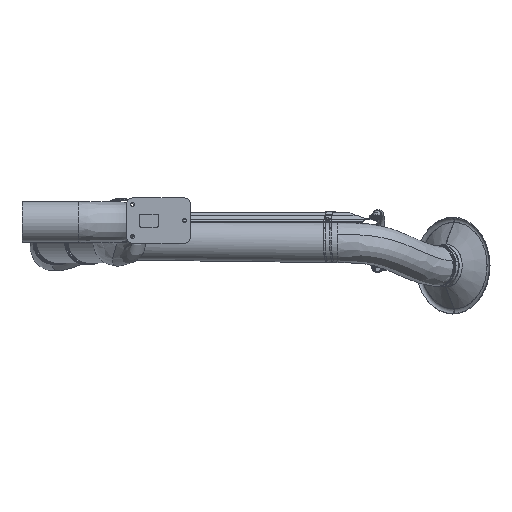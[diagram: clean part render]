
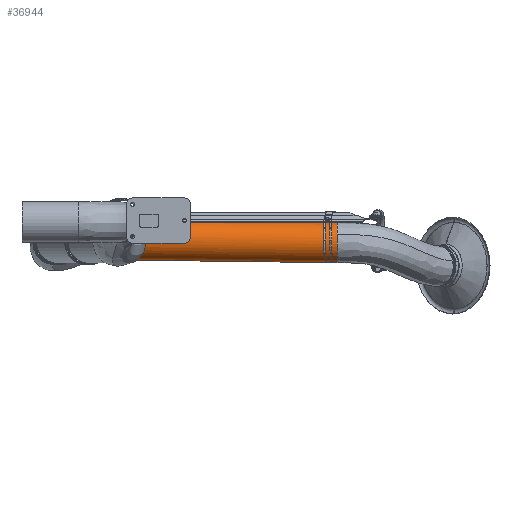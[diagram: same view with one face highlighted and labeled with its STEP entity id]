
A CAD part, left-side view. The second image highlights one B-rep face of the part: STEP entity #36944.
In plain terms, the highlighted free-form (B-spline) face has degree [3, 3] with [7, 6] control points.
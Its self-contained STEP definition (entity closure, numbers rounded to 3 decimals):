
#35926=CARTESIAN_POINT('',(1148.758,-583.002,
-126.495));
#35927=CARTESIAN_POINT('',(1148.758,-502.669,
-125.495));
#35928=CARTESIAN_POINT('',(1148.758,-342.002,
-123.495));
#35929=CARTESIAN_POINT('',(1148.758,-101.002,
-120.495));
#35930=CARTESIAN_POINT('',(1148.758,59.665,
-118.495));
#35931=CARTESIAN_POINT('',(1148.758,139.998,
-117.495));
#35936=CARTESIAN_POINT('',(1148.758,-583.78,-64.));
#35937=DIRECTION('',(0.,-1.,-0.012));
#35938=DIRECTION('',(0.,-0.012,1.));
#35939=AXIS2_PLACEMENT_3D('',#35936,#35937,#35938);
#35944=CARTESIAN_POINT('',(1148.758,-583.78,-64.));
#35945=DIRECTION('',(0.,-1.,-0.012));
#35946=DIRECTION('',(-0.913,-0.005,0.409));
#35947=AXIS2_PLACEMENT_3D('',#35944,#35945,#35946);
#35968=CARTESIAN_POINT('',(1148.758,-584.558,
-1.505));
#35969=CARTESIAN_POINT('',(1148.758,-504.225,
-0.505));
#35970=CARTESIAN_POINT('',(1148.758,-343.558,
1.495));
#35971=CARTESIAN_POINT('',(1148.758,-102.558,
4.495));
#35972=CARTESIAN_POINT('',(1148.758,58.109,6.495));
#35973=CARTESIAN_POINT('',(1148.758,138.442,7.495));
#36262=CARTESIAN_POINT('',(1148.758,139.22,-55.));
#36263=DIRECTION('',(0.,1.,0.012));
#36264=DIRECTION('',(0.,0.012,-1.));
#36265=AXIS2_PLACEMENT_3D('',#36262,#36263,#36264);
#36849=CARTESIAN_POINT('',(1148.758,139.998,
-117.495));
#36850=CARTESIAN_POINT('',(1148.758,138.442,7.495));
#36851=VERTEX_POINT('',#36849);
#36852=VERTEX_POINT('',#36850);
#36875=VERTEX_POINT('',#35926);
#36876=VERTEX_POINT('',#35968);
#36885=CARTESIAN_POINT('',(1091.719,-584.098,
-38.453));
#36886=VERTEX_POINT('',#36885);
#36889=CARTESIAN_POINT('',(1152.683,-597.464,
-126.552));
#36890=CARTESIAN_POINT('',(1152.683,-592.644,
-126.492));
#36891=CARTESIAN_POINT('',(1152.683,-346.824,
-123.432));
#36892=CARTESIAN_POINT('',(1152.683,-96.184,
-120.312));
#36893=CARTESIAN_POINT('',(1152.683,149.636,
-117.252));
#36894=CARTESIAN_POINT('',(1152.683,154.456,
-117.192));
#36895=CARTESIAN_POINT('',(1114.296,-597.434,
-128.967));
#36896=CARTESIAN_POINT('',(1114.296,-592.614,
-128.907));
#36897=CARTESIAN_POINT('',(1114.296,-346.794,
-125.847));
#36898=CARTESIAN_POINT('',(1114.296,-96.154,
-122.727));
#36899=CARTESIAN_POINT('',(1114.296,149.666,
-119.667));
#36900=CARTESIAN_POINT('',(1114.296,154.486,
-119.607));
#36901=CARTESIAN_POINT('',(1086.258,-597.761,
-102.639));
#36902=CARTESIAN_POINT('',(1086.258,-592.941,
-102.579));
#36903=CARTESIAN_POINT('',(1086.258,-347.121,
-99.519));
#36904=CARTESIAN_POINT('',(1086.258,-96.481,
-96.399));
#36905=CARTESIAN_POINT('',(1086.258,149.339,
-93.339));
#36906=CARTESIAN_POINT('',(1086.258,154.159,
-93.279));
#36907=CARTESIAN_POINT('',(1086.258,-598.24,-64.18));
#36908=CARTESIAN_POINT('',(1086.258,-593.42,-64.12));
#36909=CARTESIAN_POINT('',(1086.258,-347.6,-61.06));
#36910=CARTESIAN_POINT('',(1086.258,-96.96,-57.94));
#36911=CARTESIAN_POINT('',(1086.258,148.86,-54.88));
#36912=CARTESIAN_POINT('',(1086.258,153.68,-54.82));
#36913=CARTESIAN_POINT('',(1086.258,-598.719,
-25.721));
#36914=CARTESIAN_POINT('',(1086.258,-593.899,
-25.661));
#36915=CARTESIAN_POINT('',(1086.258,-348.079,
-22.601));
#36916=CARTESIAN_POINT('',(1086.258,-97.439,
-19.481));
#36917=CARTESIAN_POINT('',(1086.258,148.381,
-16.421));
#36918=CARTESIAN_POINT('',(1086.258,153.201,
-16.361));
#36919=CARTESIAN_POINT('',(1114.296,-599.047,
0.607));
#36920=CARTESIAN_POINT('',(1114.296,-594.227,
0.667));
#36921=CARTESIAN_POINT('',(1114.296,-348.407,
3.727));
#36922=CARTESIAN_POINT('',(1114.296,-97.767,
6.847));
#36923=CARTESIAN_POINT('',(1114.296,148.053,9.907));
#36924=CARTESIAN_POINT('',(1114.296,152.873,9.967));
#36925=CARTESIAN_POINT('',(1152.683,-599.017,
-1.808));
#36926=CARTESIAN_POINT('',(1152.683,-594.197,
-1.748));
#36927=CARTESIAN_POINT('',(1152.683,-348.377,
1.312));
#36928=CARTESIAN_POINT('',(1152.683,-97.737,
4.432));
#36929=CARTESIAN_POINT('',(1152.683,148.083,7.492));
#36930=CARTESIAN_POINT('',(1152.683,152.903,7.552));
#36931=(BOUNDED_SURFACE()B_SPLINE_SURFACE(3,3,((#36889,#36890,#36891,#36892,
#36893,#36894),(#36895,#36896,#36897,#36898,#36899,#36900),(#36901,#36902,
#36903,#36904,#36905,#36906),(#36907,#36908,#36909,#36910,#36911,#36912),
(#36913,#36914,#36915,#36916,#36917,#36918),(#36919,#36920,#36921,#36922,#36923,
#36924),(#36925,#36926,#36927,#36928,#36929,#36930)),.UNSPECIFIED.,.F.,.F.,.F.)B_SPLINE_SURFACE_WITH_KNOTS((4,3,4),(4,1,1,4),(0.,1.,2.),(-0.02,0.,1.,
1.02),.UNSPECIFIED.)GEOMETRIC_REPRESENTATION_ITEM()RATIONAL_B_SPLINE_SURFACE((
(1.187,1.187,1.187,1.187,
1.187,1.187),(0.938,0.938,
0.938,0.938,0.938,0.938),(
0.938,0.938,0.938,0.938,
0.938,0.938),(1.187,1.187,
1.187,1.187,1.187,1.187),(
0.938,0.938,0.938,0.938,
0.938,0.938),(0.938,0.938,
0.938,0.938,0.938,0.938),(
1.187,1.187,1.187,1.187,
1.187,1.187)))REPRESENTATION_ITEM('')SURFACE());
#36933=ORIENTED_EDGE('',*,*,#36932,.T.);
#36935=ORIENTED_EDGE('',*,*,#36934,.T.);
#36937=ORIENTED_EDGE('',*,*,#36936,.F.);
#36939=ORIENTED_EDGE('',*,*,#36938,.T.);
#36941=ORIENTED_EDGE('',*,*,#36940,.T.);
#36942=EDGE_LOOP('',(#36933,#36935,#36937,#36939,#36941));
#36943=FACE_OUTER_BOUND('',#36942,.F.);
#35932=B_SPLINE_CURVE_WITH_KNOTS('',3,(#35926,#35927,#35928,#35929,#35930,
#35931),.UNSPECIFIED.,.F.,.F.,(4,1,1,4),(0.,0.333,
0.667,1.),.UNSPECIFIED.);
#35940=CIRCLE('',#35939,62.5);
#35948=CIRCLE('',#35947,62.5);
#35974=B_SPLINE_CURVE_WITH_KNOTS('',3,(#35968,#35969,#35970,#35971,#35972,
#35973),.UNSPECIFIED.,.F.,.F.,(4,1,1,4),(0.,0.333,
0.667,1.),.UNSPECIFIED.);
#36266=CIRCLE('',#36265,62.5);
#36932=EDGE_CURVE('',#36875,#36851,#35932,.T.);
#36934=EDGE_CURVE('',#36851,#36852,#36266,.T.);
#36936=EDGE_CURVE('',#36876,#36852,#35974,.T.);
#36938=EDGE_CURVE('',#36876,#36886,#35940,.T.);
#36940=EDGE_CURVE('',#36886,#36875,#35948,.T.);
#36944=ADVANCED_FACE('',(#36943),#36931,.T.);
